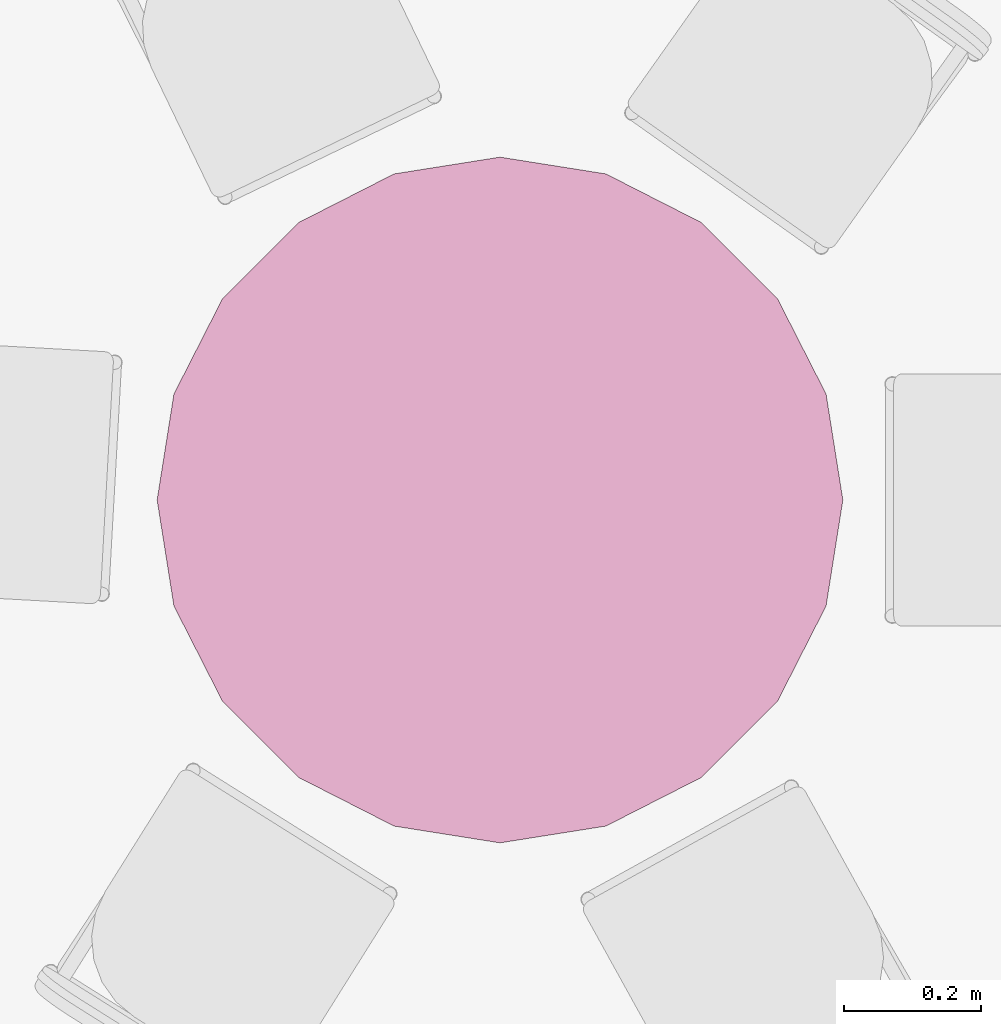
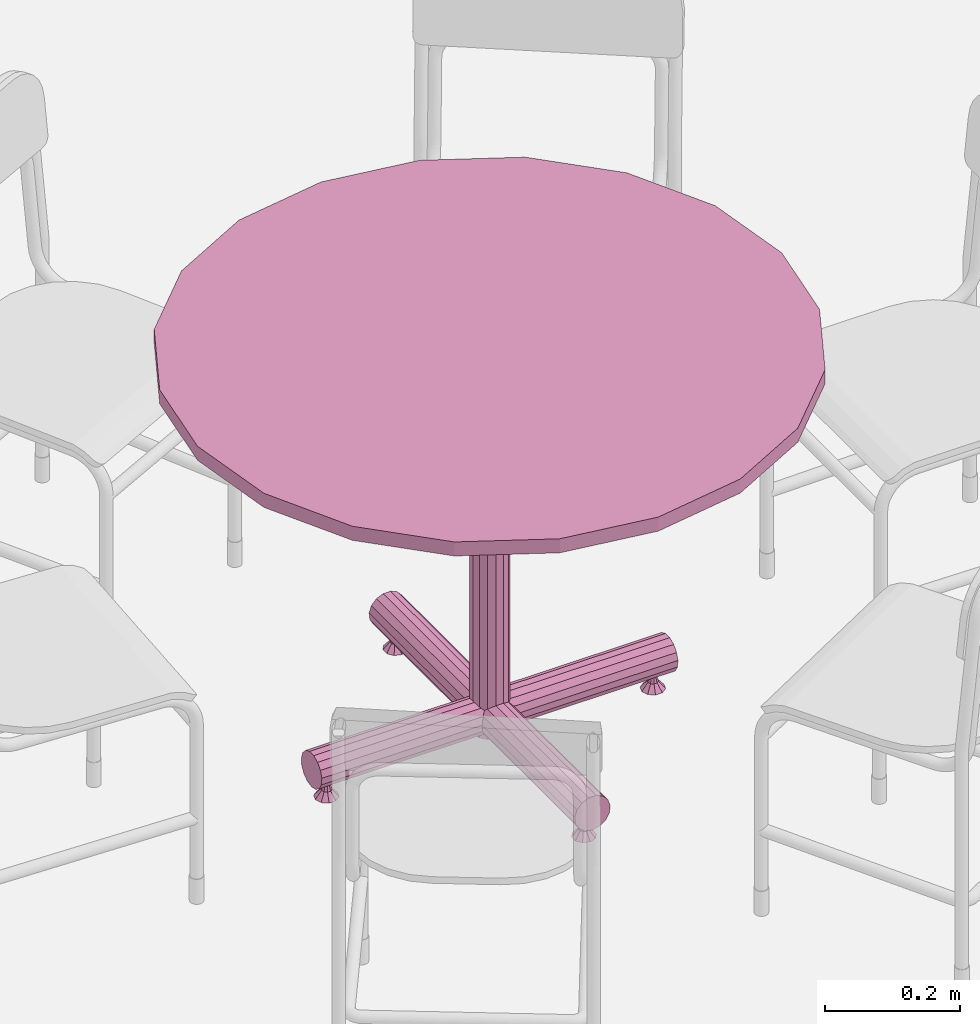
# One storey, part 277 of 301: 1 furnishing.
"""IFC2X3 building model written with IfcOpenShell, lengths in millimetres."""

from ifc_helpers import new_model, entity, si_unit, converted_unit, derived_unit, money_unit, direction, frame, origin_with_axes, place, context, subcontext, project, spatial, open_shell, faceted_brep, surface_model, source, transform, mapped, type_object, element, save


model = new_model("IFC2X3")

# Units and contexts
model_context = context("Model", 3, precision=0.01, world=origin_with_axes(), true_north=direction((0.0, 1.0)))
body_context = subcontext(model_context, "Body", "Model", "MODEL_VIEW")
ifc_project = project(units=[si_unit("LENGTHUNIT", "METRE", prefix="MILLI"), si_unit("AREAUNIT", "SQUARE_METRE"), si_unit("VOLUMEUNIT", "CUBIC_METRE"), converted_unit("PLANEANGLEUNIT", "DEGREE", entity("IfcPlaneAngleMeasure", 0.0174532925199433), si_unit("PLANEANGLEUNIT", "RADIAN"), dimensions=[0, 0, 0, 0, 0, 0, 0]), money_unit("EUR"), converted_unit("TIMEUNIT", "Year", entity("IfcTimeMeasure", 31557600.0), si_unit("TIMEUNIT", "SECOND"), dimensions=[0, 0, 1, 0, 0, 0, 0]), si_unit("MASSUNIT", "GRAM", prefix="KILO"), si_unit("THERMODYNAMICTEMPERATUREUNIT", "DEGREE_CELSIUS"), si_unit("LUMINOUSINTENSITYUNIT", "LUMEN"), si_unit("ENERGYUNIT", "JOULE", prefix="MEGA"), derived_unit("THERMALCONDUCTANCEUNIT", [(si_unit("POWERUNIT", "WATT"), 1), (si_unit("LENGTHUNIT", "METRE"), -1), (si_unit("THERMODYNAMICTEMPERATUREUNIT", "KELVIN"), -1)]), derived_unit("SPECIFICHEATCAPACITYUNIT", [(si_unit("ENERGYUNIT", "JOULE"), 1), (si_unit("MASSUNIT", "GRAM", prefix="KILO"), -1), (si_unit("THERMODYNAMICTEMPERATUREUNIT", "KELVIN"), -1)]), derived_unit("MASSDENSITYUNIT", [(si_unit("MASSUNIT", "GRAM", prefix="KILO"), 1), (si_unit("VOLUMEUNIT", "CUBIC_METRE"), -1)])], contexts=[model_context])

# Site, building, storey
site_placement = place(None, frame((0.0, 0.0, 8650.0), z_axis=(0.0, 0.0, 1.0), x_axis=(1.0, 0.0, 0.0)))
site = spatial("IfcSite", under=ifc_project, at=site_placement, Name="43301:001:0844", CompositionType="ELEMENT")
building_placement = place(site_placement, origin_with_axes())
building = spatial("IfcBuilding", under=site, at=building_placement, Name="Kuressaare Ametikooli tuulikute mehaanikute õppekorpus", CompositionType="ELEMENT")
storey_placement = place(building_placement, origin_with_axes())
storey = spatial("IfcBuildingStorey", under=building, at=storey_placement, Name="1.korrus", CompositionType="ELEMENT", Elevation=0.0)

# Furnishing
furniture_type = type_object("IfcFurnitureType", Name="Round Table 02 27", AssemblyPlace="NOTDEFINED")
shared_shape = source(origin_with_axes(), body_context, "Body", "SurfaceModel", [
    faceted_brep([(294.8117737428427, -11.19730905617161, 0.0), (298.45, 0.0, 0.0), (287.8666666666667, 0.0, 12.7), (286.2496772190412, -4.976581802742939, 12.7), (285.2867737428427, -18.11762663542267, 0.0), (273.5132262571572, -18.11762663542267, 0.0), (263.9882262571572, -11.19730905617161, 0.0), (260.35, 0.0, 0.0), (263.9882262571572, 11.19730905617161, 0.0), (273.5132262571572, 18.11762663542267, 0.0), (285.2867737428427, 18.11762663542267, 0.0), (294.8117737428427, 11.19730905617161, 0.0), (286.2496772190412, 4.976581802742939, 12.7), (282.0163438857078, 8.052278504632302, 12.7), (276.7836561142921, 8.052278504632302, 12.7), (272.5503227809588, 4.976581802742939, 12.7), (270.9333333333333, 0.0, 12.7), (272.5503227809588, -4.976581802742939, 12.7), (276.7836561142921, -8.052278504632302, 12.7), (282.0163438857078, -8.052278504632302, 12.7)], [[[0, 1, 2, 3]], [[0, 4, 5, 6, 7, 8, 9, 10, 11, 1]], [[1, 11, 12, 2]], [[3, 2, 12, 13, 14, 15, 16, 17, 18, 19]], [[4, 0, 3, 19]], [[5, 4, 19, 18]], [[6, 5, 18, 17]], [[7, 6, 17, 16]], [[8, 7, 16, 15]], [[9, 8, 15, 14]], [[10, 9, 14, 13]], [[11, 10, 13, 12]]]),
    faceted_brep([(286.2496772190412, -4.976581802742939, 12.7), (287.8666666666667, 0.0, 12.7), (284.48, 0.0, 25.4), (283.5098063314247, -2.985949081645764, 25.4), (282.0163438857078, -8.052278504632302, 12.7), (276.7836561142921, -8.052278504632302, 12.7), (272.5503227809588, -4.976581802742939, 12.7), (270.9333333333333, 0.0, 12.7), (272.5503227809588, 4.976581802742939, 12.7), (276.7836561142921, 8.052278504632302, 12.7), (282.0163438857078, 8.052278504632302, 12.7), (286.2496772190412, 4.976581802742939, 12.7), (283.5098063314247, 2.985949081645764, 25.4), (280.9698063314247, 4.831367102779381, 25.4), (277.8301936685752, 4.831367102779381, 25.4), (275.2901936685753, 2.985949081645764, 25.4), (274.32, 0.0, 25.4), (275.2901936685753, -2.985949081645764, 25.4), (277.8301936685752, -4.831367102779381, 25.4), (280.9698063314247, -4.831367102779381, 25.4)], [[[0, 1, 2, 3]], [[0, 4, 5, 6, 7, 8, 9, 10, 11, 1]], [[1, 11, 12, 2]], [[3, 2, 12, 13, 14, 15, 16, 17, 18, 19]], [[4, 0, 3, 19]], [[5, 4, 19, 18]], [[6, 5, 18, 17]], [[7, 6, 17, 16]], [[8, 7, 16, 15]], [[9, 8, 15, 14]], [[10, 9, 14, 13]], [[11, 10, 13, 12]]]),
    faceted_brep([(11.19730905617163, 294.8117737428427, 0.0), (0.0, 298.45, 0.0), (0.0, 287.8666666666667, 12.7), (4.976581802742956, 286.2496772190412, 12.7), (18.11762663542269, 285.2867737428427, 0.0), (18.11762663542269, 273.5132262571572, 0.0), (11.19730905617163, 263.9882262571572, 0.0), (0.0, 260.35, 0.0), (-11.1973090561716, 263.9882262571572, 0.0), (-18.11762663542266, 273.5132262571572, 0.0), (-18.11762663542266, 285.2867737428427, 0.0), (-11.19730905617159, 294.8117737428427, 0.0), (-4.976581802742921, 286.2496772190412, 12.7), (-8.052278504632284, 282.0163438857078, 12.7), (-8.052278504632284, 276.7836561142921, 12.7), (-4.976581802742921, 272.5503227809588, 12.7), (0.0, 270.9333333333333, 12.7), (4.976581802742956, 272.5503227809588, 12.7), (8.052278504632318, 276.7836561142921, 12.7), (8.052278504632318, 282.0163438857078, 12.7)], [[[0, 1, 2, 3]], [[0, 4, 5, 6, 7, 8, 9, 10, 11, 1]], [[1, 11, 12, 2]], [[3, 2, 12, 13, 14, 15, 16, 17, 18, 19]], [[4, 0, 3, 19]], [[5, 4, 19, 18]], [[6, 5, 18, 17]], [[7, 6, 17, 16]], [[8, 7, 16, 15]], [[9, 8, 15, 14]], [[10, 9, 14, 13]], [[11, 10, 13, 12]]]),
    faceted_brep([(4.976581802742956, 286.2496772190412, 12.7), (0.0, 287.8666666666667, 12.7), (0.0, 284.48, 25.4), (2.985949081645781, 283.5098063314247, 25.4), (8.052278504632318, 282.0163438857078, 12.7), (8.052278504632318, 276.7836561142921, 12.7), (4.976581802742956, 272.5503227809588, 12.7), (0.0, 270.9333333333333, 12.7), (-4.976581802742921, 272.5503227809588, 12.7), (-8.052278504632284, 276.7836561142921, 12.7), (-8.052278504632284, 282.0163438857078, 12.7), (-4.976581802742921, 286.2496772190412, 12.7), (-2.985949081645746, 283.5098063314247, 25.4), (-4.831367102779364, 280.9698063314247, 25.4), (-4.831367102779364, 277.8301936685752, 25.4), (-2.985949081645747, 275.2901936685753, 25.4), (0.0, 274.32, 25.4), (2.98594908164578, 275.2901936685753, 25.4), (4.831367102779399, 277.8301936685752, 25.4), (4.831367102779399, 280.9698063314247, 25.4)], [[[0, 1, 2, 3]], [[0, 4, 5, 6, 7, 8, 9, 10, 11, 1]], [[1, 11, 12, 2]], [[3, 2, 12, 13, 14, 15, 16, 17, 18, 19]], [[4, 0, 3, 19]], [[5, 4, 19, 18]], [[6, 5, 18, 17]], [[7, 6, 17, 16]], [[8, 7, 16, 15]], [[9, 8, 15, 14]], [[10, 9, 14, 13]], [[11, 10, 13, 12]]]),
    faceted_brep([(-294.8117737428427, 11.19730905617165, 0.0), (-298.45, 0.0, 0.0), (-287.8666666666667, 0.0, 12.7), (-286.2496772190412, 4.976581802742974, 12.7), (-285.2867737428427, 18.11762663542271, 0.0), (-273.5132262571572, 18.11762663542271, 0.0), (-263.9882262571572, 11.19730905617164, 0.0), (-260.35, 0.0, 0.0), (-263.9882262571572, -11.19730905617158, 0.0), (-273.5132262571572, -18.11762663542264, 0.0), (-285.2867737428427, -18.11762663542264, 0.0), (-294.8117737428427, -11.19730905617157, 0.0), (-286.2496772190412, -4.976581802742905, 12.7), (-282.0163438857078, -8.052278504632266, 12.7), (-276.7836561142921, -8.052278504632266, 12.7), (-272.5503227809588, -4.976581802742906, 12.7), (-270.9333333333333, 0.0, 12.7), (-272.5503227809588, 4.976581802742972, 12.7), (-276.7836561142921, 8.052278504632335, 12.7), (-282.0163438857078, 8.052278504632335, 12.7)], [[[0, 1, 2, 3]], [[0, 4, 5, 6, 7, 8, 9, 10, 11, 1]], [[1, 11, 12, 2]], [[3, 2, 12, 13, 14, 15, 16, 17, 18, 19]], [[4, 0, 3, 19]], [[5, 4, 19, 18]], [[6, 5, 18, 17]], [[7, 6, 17, 16]], [[8, 7, 16, 15]], [[9, 8, 15, 14]], [[10, 9, 14, 13]], [[11, 10, 13, 12]]]),
    faceted_brep([(-286.2496772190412, 4.976581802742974, 12.7), (-287.8666666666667, 0.0, 12.7), (-284.48, 0.0, 25.4), (-283.5098063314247, 2.985949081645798, 25.4), (-282.0163438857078, 8.052278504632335, 12.7), (-276.7836561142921, 8.052278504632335, 12.7), (-272.5503227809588, 4.976581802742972, 12.7), (-270.9333333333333, 0.0, 12.7), (-272.5503227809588, -4.976581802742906, 12.7), (-276.7836561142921, -8.052278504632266, 12.7), (-282.0163438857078, -8.052278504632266, 12.7), (-286.2496772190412, -4.976581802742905, 12.7), (-283.5098063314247, -2.985949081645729, 25.4), (-280.9698063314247, -4.831367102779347, 25.4), (-277.8301936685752, -4.831367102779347, 25.4), (-275.2901936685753, -2.98594908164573, 25.4), (-274.32, 0.0, 25.4), (-275.2901936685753, 2.985949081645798, 25.4), (-277.8301936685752, 4.831367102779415, 25.4), (-280.9698063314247, 4.831367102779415, 25.4)], [[[0, 1, 2, 3]], [[0, 4, 5, 6, 7, 8, 9, 10, 11, 1]], [[1, 11, 12, 2]], [[3, 2, 12, 13, 14, 15, 16, 17, 18, 19]], [[4, 0, 3, 19]], [[5, 4, 19, 18]], [[6, 5, 18, 17]], [[7, 6, 17, 16]], [[8, 7, 16, 15]], [[9, 8, 15, 14]], [[10, 9, 14, 13]], [[11, 10, 13, 12]]]),
    faceted_brep([(-11.19730905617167, -294.8117737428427, 0.0), (0.0, -298.45, 0.0), (0.0, -287.8666666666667, 12.7), (-4.976581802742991, -286.2496772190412, 12.7), (-18.11762663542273, -285.2867737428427, 0.0), (-18.11762663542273, -273.5132262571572, 0.0), (-11.19730905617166, -263.9882262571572, 0.0), (0.0, -260.35, 0.0), (11.19730905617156, -263.9882262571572, 0.0), (18.11762663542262, -273.5132262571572, 0.0), (18.11762663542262, -285.2867737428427, 0.0), (11.19730905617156, -294.8117737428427, 0.0), (4.976581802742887, -286.2496772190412, 12.7), (8.052278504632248, -282.0163438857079, 12.7), (8.052278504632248, -276.7836561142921, 12.7), (4.976581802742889, -272.5503227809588, 12.7), (0.0, -270.9333333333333, 12.7), (-4.976581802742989, -272.5503227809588, 12.7), (-8.052278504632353, -276.7836561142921, 12.7), (-8.052278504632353, -282.0163438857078, 12.7)], [[[0, 1, 2, 3]], [[0, 4, 5, 6, 7, 8, 9, 10, 11, 1]], [[1, 11, 12, 2]], [[3, 2, 12, 13, 14, 15, 16, 17, 18, 19]], [[4, 0, 3, 19]], [[5, 4, 19, 18]], [[6, 5, 18, 17]], [[7, 6, 17, 16]], [[8, 7, 16, 15]], [[9, 8, 15, 14]], [[10, 9, 14, 13]], [[11, 10, 13, 12]]]),
    faceted_brep([(-4.976581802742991, -286.2496772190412, 12.7), (0.0, -287.8666666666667, 12.7), (0.0, -284.48, 25.4), (-2.985949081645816, -283.5098063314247, 25.4), (-8.052278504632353, -282.0163438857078, 12.7), (-8.052278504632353, -276.7836561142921, 12.7), (-4.976581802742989, -272.5503227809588, 12.7), (0.0, -270.9333333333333, 12.7), (4.976581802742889, -272.5503227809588, 12.7), (8.052278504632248, -276.7836561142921, 12.7), (8.052278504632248, -282.0163438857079, 12.7), (4.976581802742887, -286.2496772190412, 12.7), (2.985949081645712, -283.5098063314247, 25.4), (4.83136710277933, -280.9698063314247, 25.4), (4.83136710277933, -277.8301936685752, 25.4), (2.985949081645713, -275.2901936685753, 25.4), (0.0, -274.32, 25.4), (-2.985949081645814, -275.2901936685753, 25.4), (-4.831367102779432, -277.8301936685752, 25.4), (-4.831367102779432, -280.9698063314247, 25.4)], [[[0, 1, 2, 3]], [[0, 4, 5, 6, 7, 8, 9, 10, 11, 1]], [[1, 11, 12, 2]], [[3, 2, 12, 13, 14, 15, 16, 17, 18, 19]], [[4, 0, 3, 19]], [[5, 4, 19, 18]], [[6, 5, 18, 17]], [[7, 6, 17, 16]], [[8, 7, 16, 15]], [[9, 8, 15, 14]], [[10, 9, 14, 13]], [[11, 10, 13, 12]]]),
    surface_model("IfcShellBasedSurfaceModel", [(27.84486554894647, -12.3973328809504, 28.03513445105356), (30.48, 0.0, 25.40000000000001), (304.8, 0.0, 25.40000000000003), (304.8, -12.3973328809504, 28.03513445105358), (27.84486554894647, 12.39733288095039, 28.03513445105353), (304.8, 12.39733288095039, 28.03513445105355), (304.8, 22.65105428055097, 35.48489911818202), (304.8, 28.98820261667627, 46.46116201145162), (304.8, 30.31302737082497, 59.06602756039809), (304.8, 26.39645430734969, 71.12), (304.8, 17.91569448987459, 80.5388379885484), (304.8, 6.337148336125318, 85.6939388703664), (304.8, -6.337148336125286, 85.6939388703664), (304.8, -17.91569448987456, 80.53883798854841), (304.8, -26.39645430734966, 71.12000000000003), (304.8, -30.31302737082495, 59.06602756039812), (304.8, -28.98820261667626, 46.46116201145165), (304.8, -22.65105428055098, 35.48489911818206), (21.34442362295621, -21.3444236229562, 34.53557637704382), (22.65105428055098, -22.65105428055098, 35.48489911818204), (21.34442362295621, 21.34442362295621, 34.5355763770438), (22.65105428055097, 22.65105428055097, 35.48489911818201), (28.98820261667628, 28.98820261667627, 46.4611620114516), (30.31302737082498, 30.31302737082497, 59.06602756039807), (26.39645430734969, 26.39645430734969, 71.11999999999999), (21.1105696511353, 21.1105696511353, 76.99056965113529), (24.65883798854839, 17.91569448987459, 80.53883798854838), (29.81393887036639, 6.337148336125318, 85.69393887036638), (29.8139388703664, -6.337148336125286, 85.69393887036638), (24.65883798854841, -17.91569448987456, 80.53883798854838), (21.1105696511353, -21.1105696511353, 76.99056965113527), (26.39645430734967, -26.39645430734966, 71.12), (30.31302737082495, -30.31302737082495, 59.0660275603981), (28.98820261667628, -28.98820261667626, 46.46116201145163)], [open_shell([[[0, 1, 2, 3]], [[1, 4, 5, 2]], [[3, 2, 5, 6, 7, 8, 9, 10, 11, 12, 13, 14, 15, 16, 17]], [[18, 0, 3, 17, 19]], [[4, 20, 21, 6, 5]], [[22, 7, 6, 21]], [[23, 8, 7, 22]], [[24, 9, 8, 23]], [[25, 26, 10, 9, 24]], [[26, 27, 11, 10]], [[27, 28, 12, 11]], [[28, 29, 13, 12]], [[29, 30, 31, 14, 13]], [[32, 15, 14, 31]], [[33, 16, 15, 32]], [[19, 17, 16, 33]]])]),
    surface_model("IfcShellBasedSurfaceModel", [(12.3973328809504, 27.84486554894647, 28.03513445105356), (0.0, 30.48, 25.40000000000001), (0.0, 304.8, 25.40000000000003), (12.39733288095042, 304.8, 28.03513445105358), (-12.39733288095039, 27.84486554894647, 28.03513445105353), (-12.39733288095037, 304.8, 28.03513445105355), (-22.65105428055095, 304.8, 35.48489911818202), (-28.98820261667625, 304.8, 46.46116201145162), (-30.31302737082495, 304.8, 59.06602756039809), (-26.39645430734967, 304.8, 71.12), (-17.91569448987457, 304.8, 80.5388379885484), (-6.337148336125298, 304.8, 85.6939388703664), (6.337148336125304, 304.8, 85.6939388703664), (17.91569448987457, 304.8, 80.53883798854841), (26.39645430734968, 304.8, 71.12000000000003), (30.31302737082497, 304.8, 59.06602756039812), (28.98820261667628, 304.8, 46.46116201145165), (22.65105428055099, 304.8, 35.48489911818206), (21.3444236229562, 21.34442362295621, 34.53557637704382), (22.65105428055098, 22.65105428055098, 35.48489911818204), (-21.34442362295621, 21.34442362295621, 34.5355763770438), (-22.65105428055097, 22.65105428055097, 35.48489911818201), (-28.98820261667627, 28.98820261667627, 46.4611620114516), (-30.31302737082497, 30.31302737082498, 59.06602756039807), (-26.39645430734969, 26.39645430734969, 71.11999999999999), (-21.1105696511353, 21.1105696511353, 76.99056965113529), (-17.91569448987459, 24.65883798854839, 80.53883798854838), (-6.337148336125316, 29.81393887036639, 85.69393887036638), (6.337148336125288, 29.8139388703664, 85.69393887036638), (17.91569448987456, 24.65883798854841, 80.53883798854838), (21.1105696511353, 21.1105696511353, 76.99056965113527), (26.39645430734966, 26.39645430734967, 71.12), (30.31302737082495, 30.31302737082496, 59.0660275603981), (28.98820261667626, 28.98820261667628, 46.46116201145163)], [open_shell([[[0, 1, 2, 3]], [[1, 4, 5, 2]], [[3, 2, 5, 6, 7, 8, 9, 10, 11, 12, 13, 14, 15, 16, 17]], [[18, 0, 3, 17, 19]], [[4, 20, 21, 6, 5]], [[22, 7, 6, 21]], [[23, 8, 7, 22]], [[24, 9, 8, 23]], [[25, 26, 10, 9, 24]], [[26, 27, 11, 10]], [[27, 28, 12, 11]], [[28, 29, 13, 12]], [[29, 30, 31, 14, 13]], [[32, 15, 14, 31]], [[33, 16, 15, 32]], [[19, 17, 16, 33]]])]),
    surface_model("IfcShellBasedSurfaceModel", [(-27.84486554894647, 12.39733288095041, 28.03513445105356), (-30.48, 0.0, 25.40000000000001), (-304.8, 0.0, 25.40000000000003), (-304.8, 12.39733288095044, 28.03513445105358), (-27.84486554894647, -12.39733288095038, 28.03513445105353), (-304.8, -12.39733288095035, 28.03513445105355), (-304.8, -22.65105428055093, 35.48489911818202), (-304.8, -28.98820261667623, 46.46116201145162), (-304.8, -30.31302737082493, 59.06602756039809), (-304.8, -26.39645430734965, 71.12), (-304.8, -17.91569448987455, 80.5388379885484), (-304.8, -6.337148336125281, 85.6939388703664), (-304.8, 6.337148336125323, 85.6939388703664), (-304.8, 17.9156944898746, 80.53883798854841), (-304.8, 26.3964543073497, 71.12000000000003), (-304.8, 30.31302737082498, 59.06602756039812), (-304.8, 28.9882026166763, 46.46116201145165), (-304.8, 22.65105428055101, 35.48489911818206), (-21.3444236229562, 21.34442362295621, 34.53557637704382), (-22.65105428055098, 22.65105428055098, 35.48489911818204), (-21.34442362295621, -21.3444236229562, 34.5355763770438), (-22.65105428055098, -22.65105428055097, 35.48489911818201), (-28.98820261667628, -28.98820261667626, 46.4611620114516), (-30.31302737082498, -30.31302737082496, 59.06602756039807), (-26.3964543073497, -26.39645430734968, 71.11999999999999), (-21.11056965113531, -21.11056965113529, 76.99056965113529), (-24.65883798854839, -17.91569448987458, 80.53883798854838), (-29.81393887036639, -6.337148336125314, 85.69393887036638), (-29.8139388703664, 6.337148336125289, 85.69393887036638), (-24.65883798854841, 17.91569448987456, 80.53883798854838), (-21.1105696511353, 21.1105696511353, 76.99056965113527), (-26.39645430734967, 26.39645430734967, 71.12), (-30.31302737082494, 30.31302737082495, 59.0660275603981), (-28.98820261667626, 28.98820261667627, 46.46116201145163)], [open_shell([[[0, 1, 2, 3]], [[1, 4, 5, 2]], [[3, 2, 5, 6, 7, 8, 9, 10, 11, 12, 13, 14, 15, 16, 17]], [[18, 0, 3, 17, 19]], [[4, 20, 21, 6, 5]], [[22, 7, 6, 21]], [[23, 8, 7, 22]], [[24, 9, 8, 23]], [[25, 26, 10, 9, 24]], [[26, 27, 11, 10]], [[27, 28, 12, 11]], [[28, 29, 13, 12]], [[29, 30, 31, 14, 13]], [[32, 15, 14, 31]], [[33, 16, 15, 32]], [[19, 17, 16, 33]]])]),
    surface_model("IfcShellBasedSurfaceModel", [(-12.39733288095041, -27.84486554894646, 28.03513445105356), (0.0, -30.48, 25.40000000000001), (0.0, -304.8, 25.40000000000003), (-12.39733288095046, -304.8, 28.03513445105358), (12.39733288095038, -27.84486554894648, 28.03513445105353), (12.39733288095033, -304.8, 28.03513445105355), (22.65105428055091, -304.8, 35.48489911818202), (28.98820261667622, -304.8, 46.46116201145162), (30.31302737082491, -304.8, 59.06602756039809), (26.39645430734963, -304.8, 71.12), (17.91569448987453, -304.8, 80.5388379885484), (6.337148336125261, -304.8, 85.6939388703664), (-6.337148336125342, -304.8, 85.6939388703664), (-17.91569448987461, -304.8, 80.53883798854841), (-26.39645430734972, -304.8, 71.12000000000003), (-30.313027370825, -304.8, 59.06602756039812), (-28.98820261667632, -304.8, 46.46116201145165), (-22.65105428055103, -304.8, 35.48489911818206), (-21.34442362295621, -21.3444236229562, 34.53557637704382), (-22.65105428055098, -22.65105428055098, 35.48489911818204), (21.3444236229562, -21.34442362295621, 34.5355763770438), (22.65105428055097, -22.65105428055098, 35.48489911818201), (28.98820261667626, -28.98820261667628, 46.4611620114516), (30.31302737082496, -30.31302737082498, 59.06602756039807), (26.39645430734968, -26.3964543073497, 71.11999999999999), (21.11056965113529, -21.11056965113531, 76.99056965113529), (17.91569448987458, -24.65883798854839, 80.53883798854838), (6.337148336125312, -29.81393887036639, 85.69393887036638), (-6.33714833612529, -29.8139388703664, 85.69393887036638), (-17.91569448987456, -24.65883798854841, 80.53883798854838), (-21.1105696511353, -21.1105696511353, 76.99056965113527), (-26.39645430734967, -26.39645430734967, 71.12), (-30.31302737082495, -30.31302737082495, 59.0660275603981), (-28.98820261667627, -28.98820261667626, 46.46116201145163)], [open_shell([[[0, 1, 2, 3]], [[1, 4, 5, 2]], [[3, 2, 5, 6, 7, 8, 9, 10, 11, 12, 13, 14, 15, 16, 17]], [[18, 0, 3, 17, 19]], [[4, 20, 21, 6, 5]], [[22, 7, 6, 21]], [[23, 8, 7, 22]], [[24, 9, 8, 23]], [[25, 26, 10, 9, 24]], [[26, 27, 11, 10]], [[27, 28, 12, 11]], [[28, 29, 13, 12]], [[29, 30, 31, 14, 13]], [[32, 15, 14, 31]], [[33, 16, 15, 32]], [[19, 17, 16, 33]]])]),
    faceted_brep([(27.84486554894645, -12.3973328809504, 25.4), (20.39510088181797, -22.65105428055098, 25.4), (9.418837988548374, -28.98820261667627, 25.4), (-3.186027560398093, -30.31302737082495, 25.4), (-15.24000000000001, -26.39645430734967, 25.4), (-24.65883798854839, -17.91569448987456, 25.4), (-29.81393887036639, -6.337148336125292, 25.4), (-29.81393887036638, 6.337148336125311, 25.4), (-24.65883798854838, 17.91569448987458, 25.4), (-15.23999999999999, 26.39645430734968, 25.4), (-3.186027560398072, 30.31302737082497, 25.4), (9.418837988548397, 28.98820261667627, 25.4), (20.39510088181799, 22.65105428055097, 25.4), (27.84486554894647, 12.39733288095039, 25.4), (30.48, 0.0, 25.4), (27.84486554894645, -12.3973328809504, 684.6), (20.39510088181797, -22.65105428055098, 684.6), (9.418837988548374, -28.98820261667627, 684.6), (-3.186027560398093, -30.31302737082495, 684.6), (-15.24000000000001, -26.39645430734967, 684.6), (-24.65883798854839, -17.91569448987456, 684.6), (-29.81393887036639, -6.337148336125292, 684.6), (-29.81393887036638, 6.337148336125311, 684.6), (-24.65883798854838, 17.91569448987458, 684.6), (-15.23999999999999, 26.39645430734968, 684.6), (-3.186027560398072, 30.31302737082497, 684.6), (9.418837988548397, 28.98820261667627, 684.6), (20.39510088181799, 22.65105428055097, 684.6), (27.84486554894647, 12.39733288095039, 684.6), (30.48, 0.0, 684.6)], [[[0, 1, 2, 3, 4, 5, 6, 7, 8, 9, 10, 11, 12, 13, 14]], [[1, 0, 15, 16]], [[2, 1, 16, 17]], [[3, 2, 17, 18]], [[4, 3, 18, 19]], [[5, 4, 19, 20]], [[6, 5, 20, 21]], [[7, 6, 21, 22]], [[8, 7, 22, 23]], [[9, 8, 23, 24]], [[10, 9, 24, 25]], [[11, 10, 25, 26]], [[12, 11, 26, 27]], [[13, 12, 27, 28]], [[14, 13, 28, 29]], [[0, 14, 29, 15]], [[15, 29, 28, 27, 26, 25, 24, 23, 22, 21, 20, 19, 18, 17, 16]]]),
    faceted_brep([(475.5282581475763, -154.5084971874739, 684.6), (404.5084971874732, -293.8926261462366, 684.6), (293.8926261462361, -404.5084971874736, 684.6), (154.5084971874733, -475.5282581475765, 684.6), (0.0, -499.9999999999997, 684.6), (-154.5084971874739, -475.5282581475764, 684.6), (-293.8926261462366, -404.5084971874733, 684.6), (-404.5084971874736, -293.8926261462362, 684.6), (-475.5282581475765, -154.5084971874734, 684.6), (-499.9999999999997, 0.0, 684.6), (-475.5282581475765, 154.5084971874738, 684.6), (-404.5084971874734, 293.8926261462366, 684.6), (-293.8926261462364, 404.5084971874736, 684.6), (-154.5084971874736, 475.5282581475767, 684.6), (0.0, 499.9999999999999, 684.6), (154.5084971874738, 475.5282581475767, 684.6), (293.8926261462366, 404.5084971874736, 684.6), (404.5084971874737, 293.8926261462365, 684.6), (475.5282581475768, 154.5084971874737, 684.6), (500.0, 0.0, 684.6), (475.5282581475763, -154.5084971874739, 710.0), (404.5084971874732, -293.8926261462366, 710.0), (293.8926261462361, -404.5084971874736, 710.0), (154.5084971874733, -475.5282581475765, 710.0), (0.0, -499.9999999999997, 710.0), (-154.5084971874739, -475.5282581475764, 710.0), (-293.8926261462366, -404.5084971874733, 710.0), (-404.5084971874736, -293.8926261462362, 710.0), (-475.5282581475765, -154.5084971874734, 710.0), (-499.9999999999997, 0.0, 710.0), (-475.5282581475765, 154.5084971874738, 710.0), (-404.5084971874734, 293.8926261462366, 710.0), (-293.8926261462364, 404.5084971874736, 710.0), (-154.5084971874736, 475.5282581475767, 710.0), (0.0, 499.9999999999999, 710.0), (154.5084971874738, 475.5282581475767, 710.0), (293.8926261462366, 404.5084971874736, 710.0), (404.5084971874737, 293.8926261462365, 710.0), (475.5282581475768, 154.5084971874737, 710.0), (500.0, 0.0, 710.0)], [[[0, 1, 2, 3, 4, 5, 6, 7, 8, 9, 10, 11, 12, 13, 14, 15, 16, 17, 18, 19]], [[1, 0, 20, 21]], [[2, 1, 21, 22]], [[3, 2, 22, 23]], [[4, 3, 23, 24]], [[5, 4, 24, 25]], [[6, 5, 25, 26]], [[7, 6, 26, 27]], [[8, 7, 27, 28]], [[9, 8, 28, 29]], [[10, 9, 29, 30]], [[11, 10, 30, 31]], [[12, 11, 31, 32]], [[13, 12, 32, 33]], [[14, 13, 33, 34]], [[15, 14, 34, 35]], [[16, 15, 35, 36]], [[17, 16, 36, 37]], [[18, 17, 37, 38]], [[19, 18, 38, 39]], [[0, 19, 39, 20]], [[20, 39, 38, 37, 36, 35, 34, 33, 32, 31, 30, 29, 28, 27, 26, 25, 24, 23, 22, 21]]]),
])
furnishing_placement = place(storey_placement, frame((125113.7147462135, 29514.61372339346, 0.0), z_axis=(0.0, 0.0, 1.0), x_axis=(0.0, 1.0, 0.0)))
element("IfcFurnishingElement", 1, at=furnishing_placement, inside=storey, type_object=furniture_type, Name="L1", context=body_context, shape_type="MappedRepresentation", body=[
    mapped(shared_shape, transform((0.0, 0.0, 0.0))),
])

save(model, "model.ifc")
